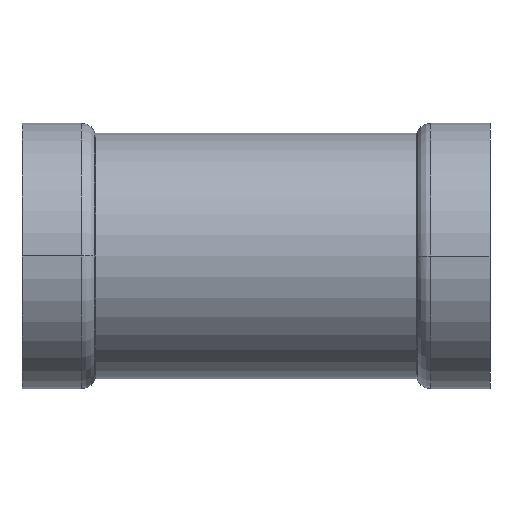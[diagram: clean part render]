
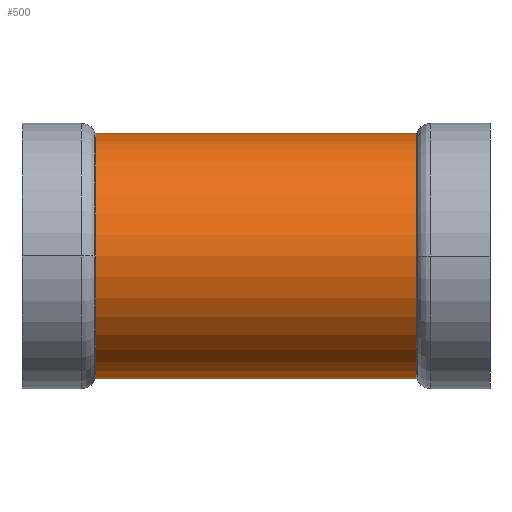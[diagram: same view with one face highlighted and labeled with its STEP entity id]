
A CAD part, front view. The second image highlights one B-rep face of the part: STEP entity #500.
In plain terms, the highlighted cylindrical face has radius 34.15 mm (diameter 68.3 mm), a partial arc.
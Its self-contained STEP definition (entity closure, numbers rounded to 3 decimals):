
#10=CARTESIAN_POINT('',(-97.751,0.,
0.));
#20=DIRECTION('',(1.,0.,0.));
#30=DIRECTION('',(0.,0.,1.));
#40=AXIS2_PLACEMENT_3D('',#10,#20,#30);
#50=CYLINDRICAL_SURFACE('',#40,34.15);
#60=CARTESIAN_POINT('',(-38.641,0.,
0.));
#70=DIRECTION('',(1.,0.,0.));
#80=DIRECTION('',(0.,-1.,0.));
#90=AXIS2_PLACEMENT_3D('',#60,#70,#80);
#100=CIRCLE('',#90,34.15);
#110=CARTESIAN_POINT('',(-38.641,-34.15,0.))
;
#120=VERTEX_POINT('',#110);
#130=CARTESIAN_POINT('',(-38.641,0.,-34.15)
);
#140=VERTEX_POINT('',#130);
#150=EDGE_CURVE('',#120,#140,#100,.T.);
#160=ORIENTED_EDGE('',*,*,#150,.F.);
#170=CARTESIAN_POINT('',(-97.751,0.,-34.15)
);
#180=DIRECTION('',(1.,0.,0.));
#190=VECTOR('',#180,1.);
#200=LINE('',#170,#190);
#210=CARTESIAN_POINT('',(-127.941,0.,-34.15));
#220=VERTEX_POINT('',#210);
#230=EDGE_CURVE('',#220,#140,#200,.T.);
#240=ORIENTED_EDGE('',*,*,#230,.T.);
#250=CARTESIAN_POINT('',(-127.941,0.,
0.));
#260=DIRECTION('',(-1.,0.,0.));
#270=DIRECTION('',(0.,1.,0.));
#280=AXIS2_PLACEMENT_3D('',#250,#260,#270);
#290=CIRCLE('',#280,34.15);
#300=CARTESIAN_POINT('',(-127.941,-34.15,0.));
#310=VERTEX_POINT('',#300);
#320=EDGE_CURVE('',#220,#310,#290,.T.);
#330=ORIENTED_EDGE('',*,*,#320,.F.);
#340=CARTESIAN_POINT('',(-127.941,0.,34.15));
#350=VERTEX_POINT('',#340);
#360=EDGE_CURVE('',#310,#350,#290,.T.);
#370=ORIENTED_EDGE('',*,*,#360,.F.);
#380=CARTESIAN_POINT('',(-97.751,0.,34.15))
;
#390=DIRECTION('',(1.,0.,0.));
#400=VECTOR('',#390,1.);
#410=LINE('',#380,#400);
#420=CARTESIAN_POINT('',(-38.641,0.,34.15));
#430=VERTEX_POINT('',#420);
#440=EDGE_CURVE('',#350,#430,#410,.T.);
#450=ORIENTED_EDGE('',*,*,#440,.F.);
#460=EDGE_CURVE('',#430,#120,#100,.T.);
#470=ORIENTED_EDGE('',*,*,#460,.F.);
#480=EDGE_LOOP('',(#470,#450,#370,#330,#240,#160));
#490=FACE_OUTER_BOUND('',#480,.T.);
#500=ADVANCED_FACE('',(#490),#50,.T.);
